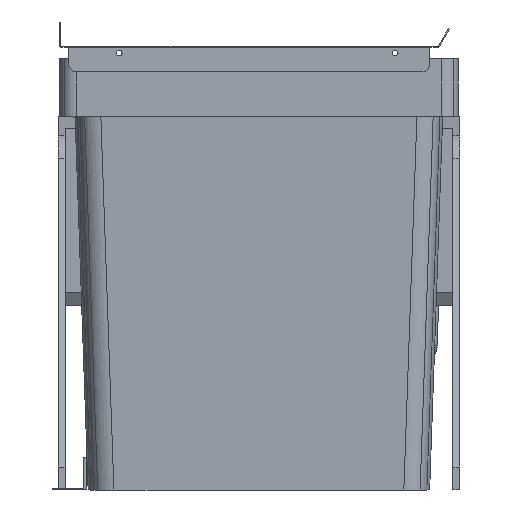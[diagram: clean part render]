
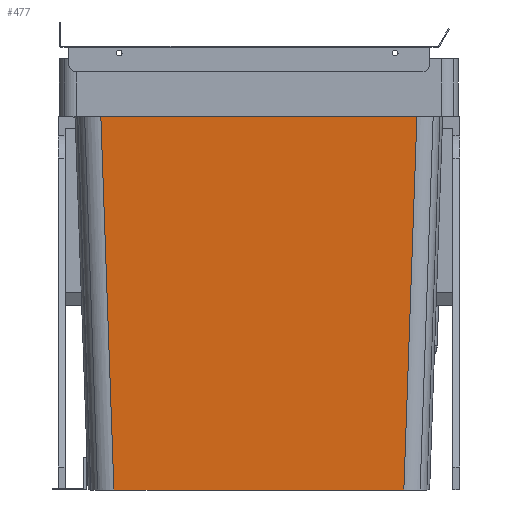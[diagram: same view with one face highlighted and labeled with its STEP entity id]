
A CAD part, left-side view. The second image highlights one B-rep face of the part: STEP entity #477.
In plain terms, the highlighted planar face has unit normal (-0.999, 0, -0.035).
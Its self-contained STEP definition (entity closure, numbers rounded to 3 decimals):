
#477=ADVANCED_FACE('',(#1195),#1196,.T.);
#1195=FACE_OUTER_BOUND('',#2158,.T.);
#1196=PLANE('',#2159);
#2158=EDGE_LOOP('',(#4176,#4177,#4178,#4179));
#2159=AXIS2_PLACEMENT_3D('',#4180,#4181,#4182);
#4176=ORIENTED_EDGE('',*,*,#6699,.F.);
#4177=ORIENTED_EDGE('',*,*,#6709,.F.);
#4178=ORIENTED_EDGE('',*,*,#6622,.F.);
#4179=ORIENTED_EDGE('',*,*,#6679,.F.);
#4180=CARTESIAN_POINT('',(-413.921,331.921,325.));
#4181=DIRECTION('',(-0.999,0.,-0.035));
#4182=DIRECTION('',(0.,1.0,0.));
#6622=EDGE_CURVE('',#7848,#7850,#7851,.T.);
#6679=EDGE_CURVE('',#7941,#7848,#7943,.T.);
#6699=EDGE_CURVE('',#7967,#7941,#7969,.T.);
#6709=EDGE_CURVE('',#7850,#7967,#7981,.T.);
#7848=VERTEX_POINT('',#9624);
#7850=VERTEX_POINT('',#9626);
#7851=LINE('',#9627,#9628);
#7941=VERTEX_POINT('',#9740);
#7943=LINE('',#9742,#9743);
#7967=VERTEX_POINT('',#9774);
#7969=LINE('',#9776,#9777);
#7981=LINE('',#9793,#9794);
#9624=CARTESIAN_POINT('',(-413.921,37.067,325.0));
#9626=CARTESIAN_POINT('',(-402.571,48.416,0.));
#9627=CARTESIAN_POINT('',(-413.753,37.234,320.212));
#9628=VECTOR('',#12344,10.0);
#9740=CARTESIAN_POINT('',(-413.921,311.933,325.0));
#9742=CARTESIAN_POINT('',(-413.921,253.21,325.0));
#9743=VECTOR('',#12433,10.0);
#9774=CARTESIAN_POINT('',(-402.571,300.583,0.));
#9776=CARTESIAN_POINT('',(-413.847,311.859,322.892));
#9777=VECTOR('',#12459,10.0);
#9793=CARTESIAN_POINT('',(-402.571,165.46,0.));
#9794=VECTOR('',#12467,10.0);
#12344=DIRECTION('',(0.035,0.035,-0.999));
#12433=DIRECTION('',(0.,-1.0,0.));
#12459=DIRECTION('',(-0.035,0.035,0.999));
#12467=DIRECTION('',(0.,1.0,0.));
